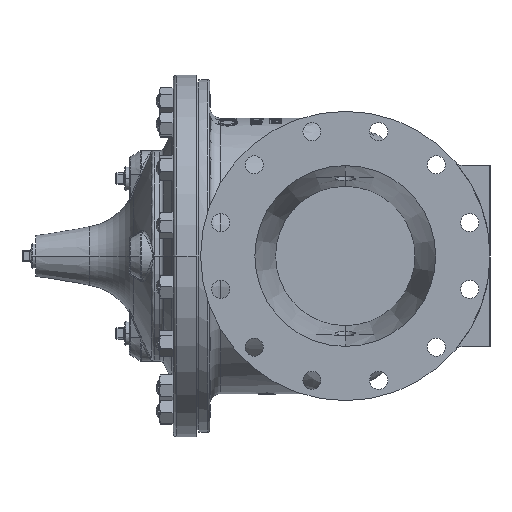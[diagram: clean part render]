
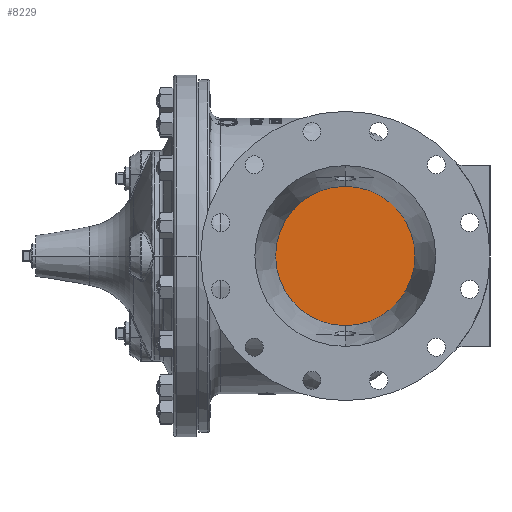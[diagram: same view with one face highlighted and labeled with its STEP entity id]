
A CAD part, left-side view. The second image highlights one B-rep face of the part: STEP entity #8229.
In plain terms, the highlighted planar face has unit normal (-1, 0, 0).
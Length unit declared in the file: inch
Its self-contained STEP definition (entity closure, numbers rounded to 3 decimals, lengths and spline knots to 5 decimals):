
#876 = VERTEX_POINT ( 'NONE', #41999 ) ;
#3893 = AXIS2_PLACEMENT_3D ( 'NONE', #51212, #35405, #51736 ) ;
#3990 = EDGE_CURVE ( 'NONE', #876, #42787, #8114, .T. ) ;
#8114 = CIRCLE ( 'NONE', #52596, 3.85387 ) ;
#8229 = ADVANCED_FACE ( 'NONE', ( #22564 ), #18556, .T. ) ;
#11489 = AXIS2_PLACEMENT_3D ( 'NONE', #31980, #19136, #23675 ) ;
#13803 = CARTESIAN_POINT ( 'NONE',  ( -6.5, 0., -3.85387 ) ) ;
#13990 = ORIENTED_EDGE ( 'NONE', *, *, #3990, .T. ) ;
#18556 = PLANE ( 'NONE',  #3893 ) ;
#19136 = DIRECTION ( 'NONE',  ( -1., 0., 0. ) ) ;
#21247 = DIRECTION ( 'NONE',  ( -1., 0., 0. ) ) ;
#22564 = FACE_OUTER_BOUND ( 'NONE', #37891, .T. ) ;
#23675 = DIRECTION ( 'NONE',  ( 0., 0., 1. ) ) ;
#27501 = ORIENTED_EDGE ( 'NONE', *, *, #52200, .T. ) ;
#29025 = CARTESIAN_POINT ( 'NONE',  ( -6.5, 0., 0. ) ) ;
#31980 = CARTESIAN_POINT ( 'NONE',  ( -6.5, 0., 0. ) ) ;
#33298 = DIRECTION ( 'NONE',  ( 0., 0., 1. ) ) ;
#34578 = CIRCLE ( 'NONE', #11489, 3.85387 ) ;
#35405 = DIRECTION ( 'NONE',  ( -1., 0., 0. ) ) ;
#37891 = EDGE_LOOP ( 'NONE', ( #13990, #27501 ) ) ;
#41999 = CARTESIAN_POINT ( 'NONE',  ( -6.5, 0., 3.85387 ) ) ;
#42787 = VERTEX_POINT ( 'NONE', #13803 ) ;
#51212 = CARTESIAN_POINT ( 'NONE',  ( -6.5, 0., 0. ) ) ;
#51736 = DIRECTION ( 'NONE',  ( 0., 0., 1. ) ) ;
#52200 = EDGE_CURVE ( 'NONE', #42787, #876, #34578, .T. ) ;
#52596 = AXIS2_PLACEMENT_3D ( 'NONE', #29025, #21247, #33298 ) ;
